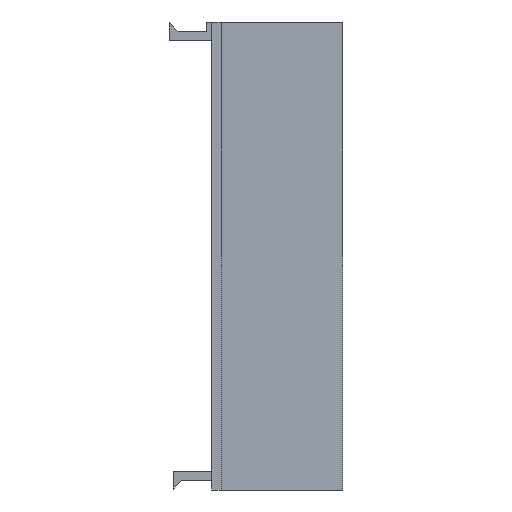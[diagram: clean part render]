
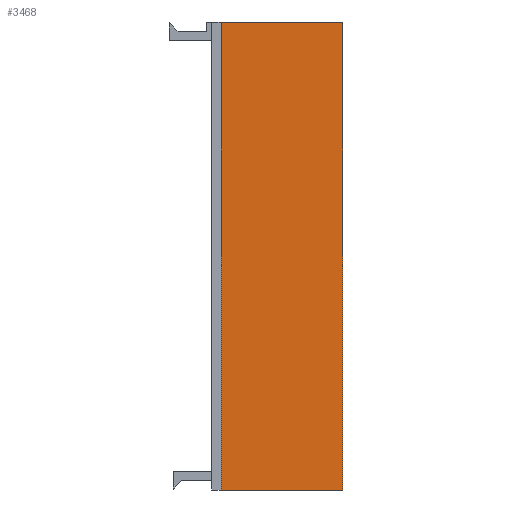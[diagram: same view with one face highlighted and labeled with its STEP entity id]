
A CAD part, left-side view. The second image highlights one B-rep face of the part: STEP entity #3468.
In plain terms, the highlighted planar face has unit normal (-1, 0, 0).
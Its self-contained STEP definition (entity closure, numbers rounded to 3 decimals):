
#94=PLANE('',#3652);
#268=FACE_OUTER_BOUND('',#446,.T.);
#446=EDGE_LOOP('',(#2605,#2606,#2607,#2608));
#710=LINE('',#4818,#1200);
#720=LINE('',#4837,#1210);
#721=LINE('',#4840,#1211);
#722=LINE('',#4841,#1212);
#1200=VECTOR('',#3938,10.);
#1210=VECTOR('',#3956,10.);
#1211=VECTOR('',#3959,10.);
#1212=VECTOR('',#3960,10.);
#1674=VERTEX_POINT('',#4815);
#1675=VERTEX_POINT('',#4817);
#1680=VERTEX_POINT('',#4835);
#1681=VERTEX_POINT('',#4839);
#2028=EDGE_CURVE('',#1674,#1675,#710,.T.);
#2038=EDGE_CURVE('',#1674,#1680,#720,.T.);
#2039=EDGE_CURVE('',#1681,#1680,#721,.T.);
#2040=EDGE_CURVE('',#1675,#1681,#722,.T.);
#2605=ORIENTED_EDGE('',*,*,#2028,.F.);
#2606=ORIENTED_EDGE('',*,*,#2038,.T.);
#2607=ORIENTED_EDGE('',*,*,#2039,.F.);
#2608=ORIENTED_EDGE('',*,*,#2040,.F.);
#3468=ADVANCED_FACE('',(#268),#94,.T.);
#3652=AXIS2_PLACEMENT_3D('',#4838,#3957,#3958);
#3938=DIRECTION('',(0.,1.,0.));
#3956=DIRECTION('',(0.,0.,1.));
#3957=DIRECTION('center_axis',(-1.,0.,0.));
#3958=DIRECTION('ref_axis',(0.,-1.,0.));
#3959=DIRECTION('',(0.,-1.,0.));
#3960=DIRECTION('',(0.,0.,1.));
#4815=CARTESIAN_POINT('',(0.,0.,0.));
#4817=CARTESIAN_POINT('',(0.,13.,0.));
#4818=CARTESIAN_POINT('',(0.,0.,0.));
#4835=CARTESIAN_POINT('',(0.,0.,50.));
#4837=CARTESIAN_POINT('',(0.,0.,0.));
#4838=CARTESIAN_POINT('Origin',(0.,13.,0.));
#4839=CARTESIAN_POINT('',(0.,13.,50.));
#4840=CARTESIAN_POINT('',(0.,0.,50.));
#4841=CARTESIAN_POINT('',(0.,13.,0.));
